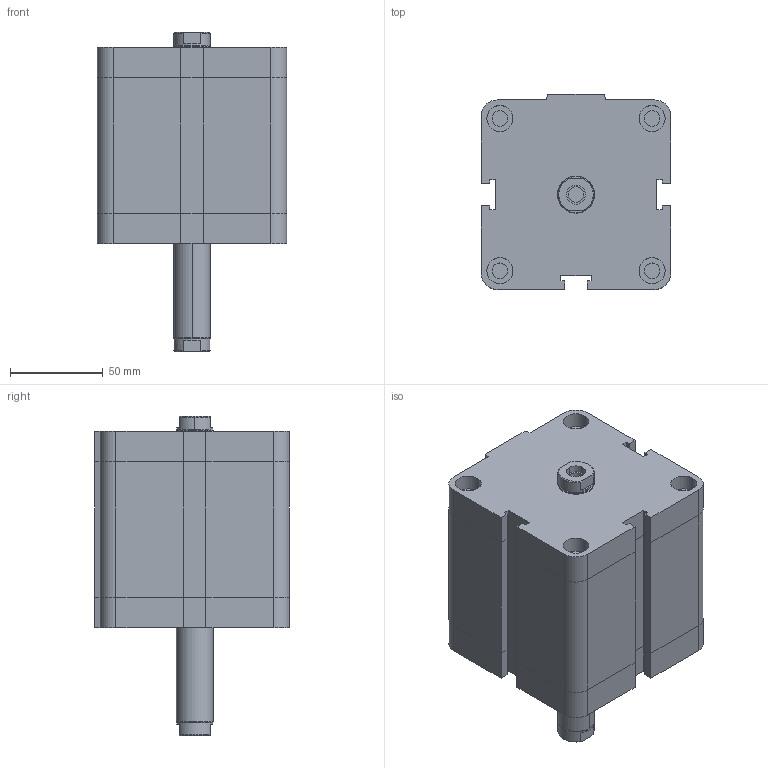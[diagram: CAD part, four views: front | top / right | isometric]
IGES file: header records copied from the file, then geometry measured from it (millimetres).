
Global section: file name: No Iges File Name specified; native system: Autodesk Inventor 2009; preprocessor: AutoDesk Inventor Iges Exporter R2009; author: maffial1; date: 20090420.200621; units: millimetre
Bounding box: 102 x 105 x 172 mm (x, y, z)
Volume: 1073863.2 mm3; surface area: 94739.3 mm2
Topology: 2 solids, 2 shells, 202 faces, 450 edges, 274 vertices
Faces by surface type: plane 114, bspline 42, revolution 20, cylinder 18, cone 8
